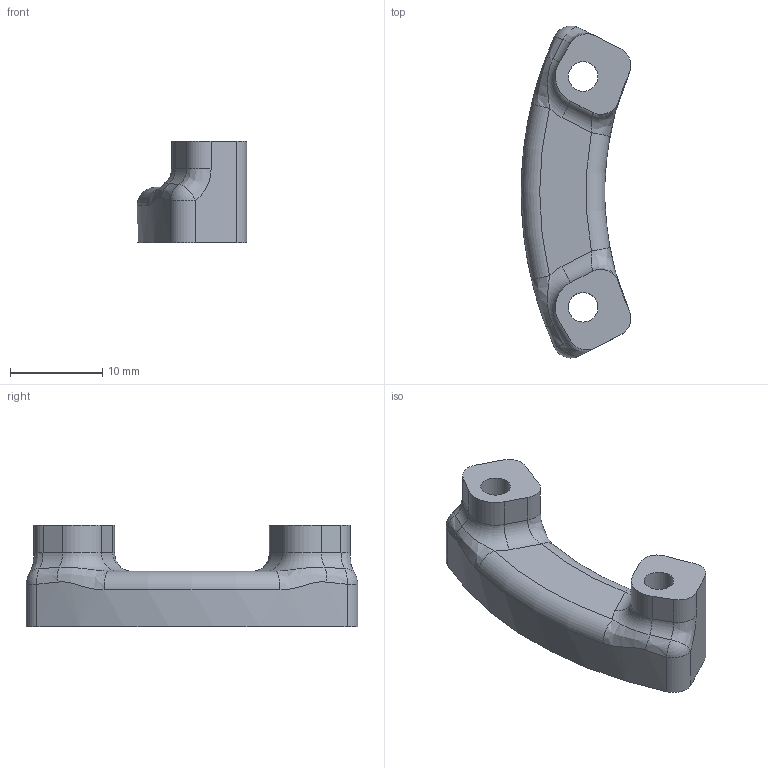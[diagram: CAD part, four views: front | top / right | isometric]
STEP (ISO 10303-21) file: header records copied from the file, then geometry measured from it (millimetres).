
FILE_DESCRIPTION(/* description */ ('STEP AP242 Edition 2','CAx-IF Rec.Pracs.---Representation and Presentation of Product Manufacturing Information (PMI)---4.0---2014-10-13','CAx-IF Rec.Pracs.---3D Tessellated Geometry---0.4---2014-09-14','2;1','CAx-IF Rec.Pracs.---User Defined Attributes---1.5---2016-08-15'),/* implementation_level */ '2;1');
FILE_NAME(/* name */ 'Assy_ForMFG - KD-C-203X_BicepYawHardstop',/* time_stamp */ '2026-05-15T19:56:30Z',/* author */ (''),/* organization */ (''),/* preprocessor_version */ 'ST-DEVELOPER v20',/* originating_system */ 'ONSHAPE BY PTC INC, 1.215',/* authorisation */ ' ');
FILE_SCHEMA (('AP242_MANAGED_MODEL_BASED_3D_ENGINEERING_MIM_LF { 1 0 10303 442 3 1 4 }'));
Length unit declared in the file: metre
Products named in the file (1): KD-C-203X_BicepYawHardstop
Bounding box: 11.86 x 35.9 x 11 mm (x, y, z)
Volume: 1912.4 mm3; surface area: 1608.9 mm2
Topology: 1 solids, 1 shells, 46 faces, 108 edges, 64 vertices
Faces by surface type: cylinder 20, plane 12, bspline 8, torus 4, sphere 2
Full cylindrical faces by diameter (mm): 3.2 x2, 6.5 x2
Entity records: 1426 total; most frequent: CARTESIAN_POINT 379, DIRECTION 224, ORIENTED_EDGE 204, EDGE_CURVE 102, AXIS2_PLACEMENT_3D 95, VERTEX_POINT 64, EDGE_LOOP 56, FACE_BOUND 56
